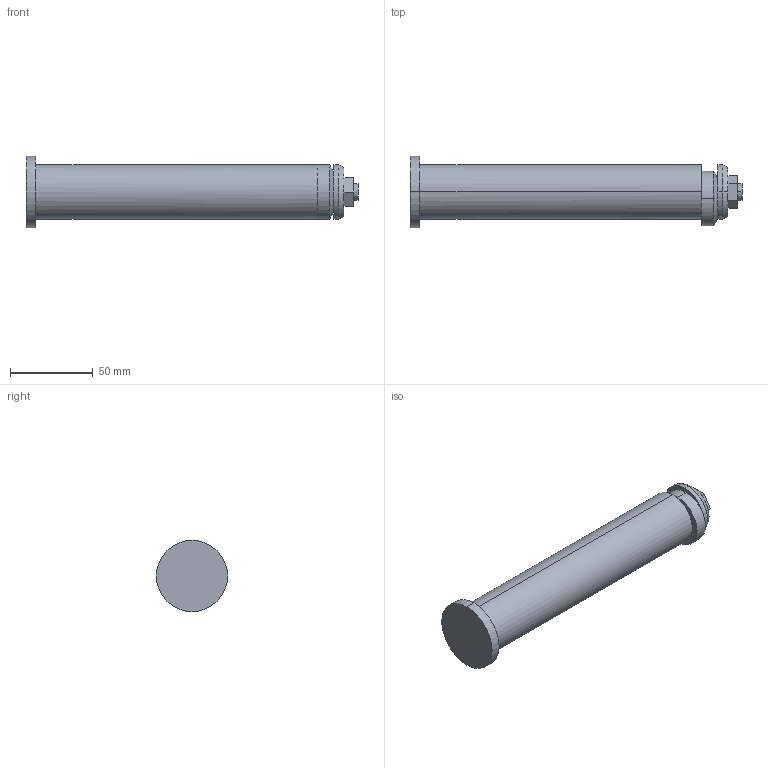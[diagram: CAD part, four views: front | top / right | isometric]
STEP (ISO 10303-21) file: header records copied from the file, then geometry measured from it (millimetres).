
FILE_DESCRIPTION(('CATIA V5 STEP Exchange'),'2;1');
FILE_NAME('C:\Users\Raffaele\Desktop\3D X SITO CF\PERNI -STAFFE SOLLEVAMENTO\395PSF\GSB_OILLESS_C10302033170\STEP-2.03\395PSF-2.stp','2019-07-03T08:32:58+00:00',('none'),('none'),'CATIA Version 5 Release 20 GA (IN-10)','CATIA V5 STEP AP203','none');
FILE_SCHEMA(('CONFIG_CONTROL_DESIGN'));
Length unit declared in the file: millimetre
Products named in the file (1): 395PSF-2
Bounding box: 200.5 x 43 x 43 mm (x, y, z)
Volume: 165781.3 mm3; surface area: 25735 mm2
Topology: 1 solids, 2 shells, 34 faces, 100 edges, 74 vertices
Faces by surface type: plane 16, cylinder 14, cone 4
Entity records: 1358 total; most frequent: CARTESIAN_POINT 417, ORIENTED_EDGE 200, DIRECTION 151, EDGE_CURVE 100, AXIS2_PLACEMENT_3D 82, VERTEX_POINT 74, CIRCLE 47, EDGE_LOOP 40
